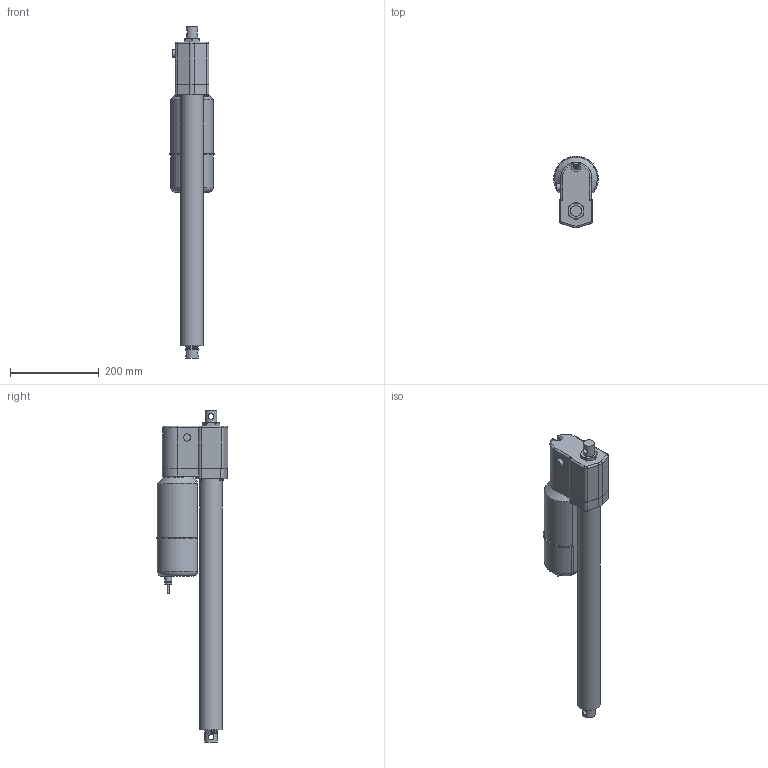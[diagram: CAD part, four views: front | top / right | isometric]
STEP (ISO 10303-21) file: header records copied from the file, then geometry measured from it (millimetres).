
FILE_DESCRIPTION (( 'STEP AP214' ), '1' );
FILE_NAME ('A22-05A5-18M0NPO-tollo.step', '2020-04-05T13:08:31', ( '' ), ( '' ), 'SwSTEP 2.0', 'SolidWorks 2010', '' );
FILE_SCHEMA (( 'AUTOMOTIVE_DESIGN' ));
Length unit declared in the file: millimetre
Products named in the file (7): Electrak-LA5-Motor-A22-05A5-18M0NPO-tollo_Electrak-LA5-Motor-A22-05A5-18M0NPO-tollo; Electrak-LA5-Rear-A22-05A5-18M0NPO-tollo_Electrak-LA5-Rear-A22-05A5-18M0NPO-tollo; Electrak-LA5-Tube-A22-05A5-18M0NPO-tollo_Electrak-LA5-Tube-A22-05A5-18M0NPO-tollo; Electrak-LA5-Rod-A22-05A5-18M0NPO-tollo_Electrak-LA5-Rod-A22-05A5-18M0NPO-tollo; Screw-MFX-H-M5-A22-05A5-18M0NPO-tollo_Screw-MFX-H-M5-A22-05A5-18M0NPO-tollo; Screw-M6S-M5-A22-05A5-18M0NPO-tollo_Screw-M6S-M5-A22-05A5-18M0NPO-tollo; A22-05A5-18M0NPO-tollo
Assembly tree (9 placements, depth 2):
  A22-05A5-18M0NPO-tollo
    Electrak-LA5-Rear-A22-05A5-18M0NPO-tollo_Electrak-LA5-Rear-A22-05A5-18M0NPO-tollo
    Screw-M6S-M5-A22-05A5-18M0NPO-tollo_Screw-M6S-M5-A22-05A5-18M0NPO-tollo  x4
    Screw-MFX-H-M5-A22-05A5-18M0NPO-tollo_Screw-MFX-H-M5-A22-05A5-18M0NPO-tollo
    Electrak-LA5-Tube-A22-05A5-18M0NPO-tollo_Electrak-LA5-Tube-A22-05A5-18M0NPO-tollo
    Electrak-LA5-Rod-A22-05A5-18M0NPO-tollo_Electrak-LA5-Rod-A22-05A5-18M0NPO-tollo
    Electrak-LA5-Motor-A22-05A5-18M0NPO-tollo_Electrak-LA5-Motor-A22-05A5-18M0NPO-tollo
Bounding box: 100.99 x 162.5 x 749.6 mm (x, y, z)
Volume: 3853186.5 mm3; surface area: 366167.2 mm2
Topology: 9 solids, 9 shells, 240 faces, 553 edges, 350 vertices
Faces by surface type: plane 96, cylinder 93, cone 31, torus 15, bspline 3, sphere 2
Full cylindrical faces by diameter (mm): 4 x1, 4.126 x5, 4.8 x2, 5 x13, 7.878 x4, 9.3 x1, 10 x1, 12.8 x2, 15 x2, 16.5 x1, 25.4 x1, 28.6 x4, 51.3 x1, 68 x1
Entity records: 5816 total; most frequent: CARTESIAN_POINT 1727, DIRECTION 814, ORIENTED_EDGE 670, AXIS2_PLACEMENT_3D 343, EDGE_CURVE 335, EDGE_LOOP 249, VERTEX_POINT 238, FACE_OUTER_BOUND 201
